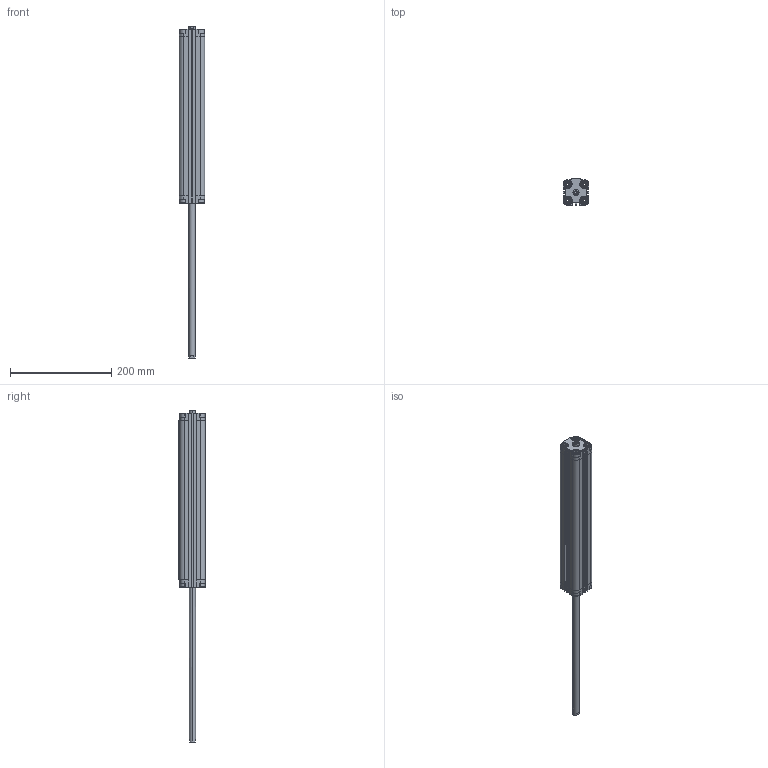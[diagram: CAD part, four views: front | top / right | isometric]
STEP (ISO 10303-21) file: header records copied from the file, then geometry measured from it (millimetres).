
FILE_DESCRIPTION (( 'STEP AP203' ), '1' );
FILE_NAME ('CDVU32-300F-P.STEP', '2020-07-24T18:14:47', ( '' ), ( '' ), 'SwSTEP 2.0', 'SolidWorks 2019', '' );
FILE_SCHEMA (( 'CONFIG_CONTROL_DESIGN' ));
Length unit declared in the file: millimetre
Products named in the file (1): CDVU32-300F-P
Bounding box: 50 x 52 x 656.5 mm (x, y, z)
Volume: 533766.2 mm3; surface area: 193599.3 mm2
Topology: 2 solids, 2 shells, 722 faces, 1928 edges, 1244 vertices
Faces by surface type: plane 422, cylinder 236, cone 64
Entity records: 22623 total; most frequent: CARTESIAN_POINT 4463, ORIENTED_EDGE 3840, DIRECTION 3710, EDGE_CURVE 1920, AXIS2_PLACEMENT_3D 1259, VERTEX_POINT 1244, LINE 1192, VECTOR 1192
